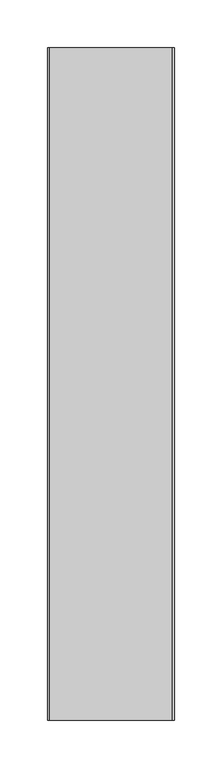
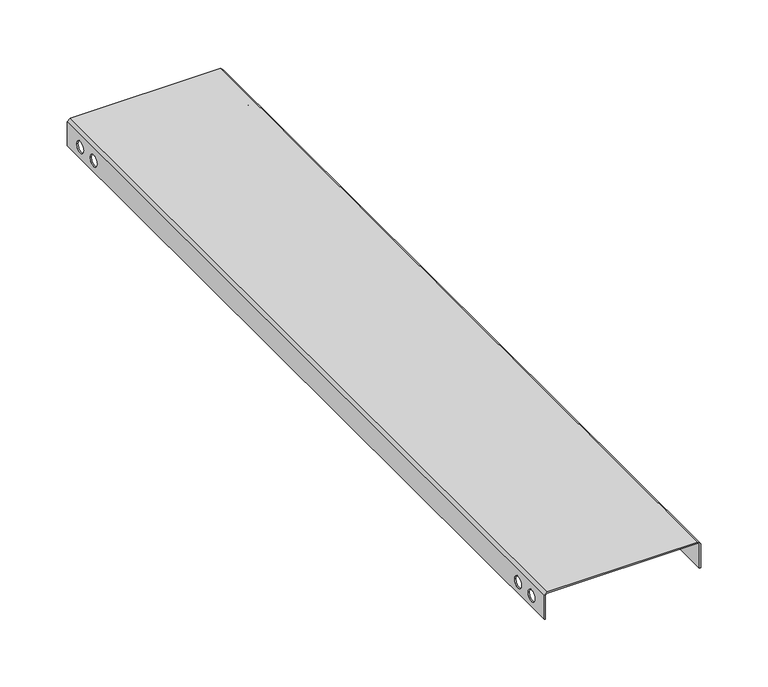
"""IFC4 building model written with IfcOpenShell, lengths in millimetres: proxy geometry, 11780900_EU_APDR008 : 59520008_EU_11780900_APDR008."""

from ifc_helpers import new_model, si_unit, frame, origin, place, context, project, spatial, polyline, circle_curve, source, transform, mapped, element, save
from ifc_brep_helpers import plane_surface, revolved_surface, advanced_brep


def specialty_equipment_b656eaf4(model_context):
    return source(origin(), model_context, "Body", "AdvancedBrep", [
        advanced_brep(
        [(-67.0, -708.0, 21.5), (-67.0, -708.0, 0.0), (-66.0, -708.0, 0.0), (-66.0, -708.0, 21.5), (-64.5, -708.0, 23.0), (64.5, -708.0, 23.0), (66.0, -708.0, 21.5), (66.0, -708.0, 0.0), (67.0, -708.0, 0.0), (67.0, -708.0, 21.5), (64.5, -708.0, 24.0), (-64.5, -708.0, 24.0), (-67.0, 0.0, 21.5), (-64.5, 0.0, 24.0), (64.5, 0.0, 24.0), (67.0, 0.0, 21.5), (67.0, 0.0, 0.0), (66.0, 0.0, 0.0), (66.0, 0.0, 21.5), (64.5, 0.0, 23.0), (-64.5, 0.0, 23.0), (-66.0, 0.0, 21.5), (-66.0, 0.0, 0.0), (-67.0, 0.0, 0.0), (-67.0, -24.0071888, 10.002217), (-67.0, -13.9928112, 10.002217), (-67.0, -44.0071888, 10.002217), (-67.0, -33.9928112, 10.002217), (-67.0, -694.0071888, 10.002217), (-67.0, -683.9928112, 10.002217), (-67.0, -674.0071888, 10.002217), (-67.0, -663.9928112, 10.002217), (-66.0, -13.9928112, 10.002217), (-66.0, -24.0071888, 10.002217), (-66.0, -33.9928112, 10.002217), (-66.0, -44.0071888, 10.002217), (-66.0, -683.9928112, 10.002217), (-66.0, -694.0071888, 10.002217), (-66.0, -663.9928112, 10.002217), (-66.0, -674.0071888, 10.002217), (67.0, -36.2136758, 10.002217), (67.0, -41.7863242, 10.002217), (67.0, -666.2136758, 10.002217), (67.0, -671.7863242, 10.002217), (66.1750437, -41.7863242, 10.002217), (66.1750437, -36.2136758, 10.002217), (66.1750437, -671.7863242, 10.002217), (66.1750437, -666.2136758, 10.002217)],
        [
            (0, 1),
            (1, 2),
            (2, 3),
            (3, 4),
            (4, 5),
            (5, 6),
            (6, 7),
            (7, 8),
            (8, 9),
            (9, 10),
            (10, 11),
            (11, 0),
            (12, 13),
            (13, 14),
            (14, 15),
            (15, 16),
            (16, 17),
            (17, 18),
            (18, 19),
            (19, 20),
            (20, 21),
            (21, 22),
            (22, 23),
            (23, 12),
            (0, 12),
            (23, 1),
            (24, 25, circle_curve(frame((-67.0, -19.0, 10.002217), z_axis=(1.0, 0.0, 0.0), x_axis=(0.0, 1.0, 0.0)), 5.0071888)),
            (25, 24, circle_curve(frame((-67.0, -19.0, 10.002217), z_axis=(1.0, 0.0, 0.0), x_axis=(0.0, 1.0, 0.0)), 5.0071888)),
            (26, 27, circle_curve(frame((-67.0, -39.0, 10.002217), z_axis=(1.0, 0.0, 0.0), x_axis=(0.0, 1.0, 0.0)), 5.0071888)),
            (27, 26, circle_curve(frame((-67.0, -39.0, 10.002217), z_axis=(1.0, 0.0, 0.0), x_axis=(0.0, 1.0, 0.0)), 5.0071888)),
            (28, 29, circle_curve(frame((-67.0, -689.0, 10.002217), z_axis=(1.0, 0.0, 0.0), x_axis=(0.0, 1.0, 0.0)), 5.0071888)),
            (29, 28, circle_curve(frame((-67.0, -689.0, 10.002217), z_axis=(1.0, 0.0, 0.0), x_axis=(0.0, 1.0, 0.0)), 5.0071888)),
            (30, 31, circle_curve(frame((-67.0, -669.0, 10.002217), z_axis=(1.0, 0.0, 0.0), x_axis=(0.0, 1.0, 0.0)), 5.0071888)),
            (31, 30, circle_curve(frame((-67.0, -669.0, 10.002217), z_axis=(1.0, 0.0, 0.0), x_axis=(0.0, 1.0, 0.0)), 5.0071888)),
            (22, 2),
            (21, 3),
            (32, 33, circle_curve(frame((-66.0, -19.0, 10.002217), z_axis=(-1.0, 0.0, 0.0), x_axis=(0.0, 1.0, 0.0)), 5.0071888)),
            (33, 32, circle_curve(frame((-66.0, -19.0, 10.002217), z_axis=(-1.0, 0.0, 0.0), x_axis=(0.0, 1.0, 0.0)), 5.0071888)),
            (34, 35, circle_curve(frame((-66.0, -39.0, 10.002217), z_axis=(-1.0, 0.0, 0.0), x_axis=(0.0, 1.0, 0.0)), 5.0071888)),
            (35, 34, circle_curve(frame((-66.0, -39.0, 10.002217), z_axis=(-1.0, 0.0, 0.0), x_axis=(0.0, 1.0, 0.0)), 5.0071888)),
            (36, 37, circle_curve(frame((-66.0, -689.0, 10.002217), z_axis=(-1.0, 0.0, 0.0), x_axis=(0.0, 1.0, 0.0)), 5.0071888)),
            (37, 36, circle_curve(frame((-66.0, -689.0, 10.002217), z_axis=(-1.0, 0.0, 0.0), x_axis=(0.0, 1.0, 0.0)), 5.0071888)),
            (38, 39, circle_curve(frame((-66.0, -669.0, 10.002217), z_axis=(-1.0, 0.0, 0.0), x_axis=(0.0, 1.0, 0.0)), 5.0071888)),
            (39, 38, circle_curve(frame((-66.0, -669.0, 10.002217), z_axis=(-1.0, 0.0, 0.0), x_axis=(0.0, 1.0, 0.0)), 5.0071888)),
            (20, 4),
            (19, 5),
            (18, 6),
            (17, 7),
            (16, 8),
            (15, 9),
            (40, 41, circle_curve(frame((67.0, -39.0, 10.002217), z_axis=(-1.0, 0.0, 0.0), x_axis=(0.0, 1.0, 0.0)), 2.7863242)),
            (41, 40, circle_curve(frame((67.0, -39.0, 10.002217), z_axis=(-1.0, 0.0, 0.0), x_axis=(0.0, 1.0, 0.0)), 2.7863242)),
            (42, 43, circle_curve(frame((67.0, -669.0, 10.002217), z_axis=(-1.0, 0.0, 0.0), x_axis=(0.0, 1.0, 0.0)), 2.7863242)),
            (43, 42, circle_curve(frame((67.0, -669.0, 10.002217), z_axis=(-1.0, 0.0, 0.0), x_axis=(0.0, 1.0, 0.0)), 2.7863242)),
            (14, 10),
            (13, 11),
            (24, 33),
            (32, 25),
            (26, 35),
            (34, 27),
            (28, 37),
            (36, 29),
            (30, 39),
            (38, 31),
            (44, 45, circle_curve(frame((66.1750437, -39.0, 10.002217), z_axis=(1.0, 0.0, 0.0), x_axis=(0.0, 1.0, 0.0)), 2.7863242)),
            (45, 44, circle_curve(frame((66.1750437, -39.0, 10.002217), z_axis=(1.0, 0.0, 0.0), x_axis=(0.0, 1.0, 0.0)), 2.7863242)),
            (46, 47, circle_curve(frame((66.1750437, -669.0, 10.002217), z_axis=(1.0, 0.0, 0.0), x_axis=(0.0, 1.0, 0.0)), 2.7863242)),
            (47, 46, circle_curve(frame((66.1750437, -669.0, 10.002217), z_axis=(1.0, 0.0, 0.0), x_axis=(0.0, 1.0, 0.0)), 2.7863242)),
            (44, 41),
            (40, 45),
            (46, 43),
            (42, 47),
        ],
        [
            plane_surface(frame((-67.0, -708.0, 0.0), z_axis=(0.0, -1.0, 0.0), x_axis=(0.0, 0.0, -1.0))),
            plane_surface(frame((-67.0, 0.0, 0.0), z_axis=(0.0, 1.0, 0.0), x_axis=(0.0, 0.0, 1.0))),
            plane_surface(frame((-67.0, -708.0, 21.5), z_axis=(-1.0, 0.0, 0.0), x_axis=(0.0, 1.0, 0.0))),
            plane_surface(frame((-67.0, -708.0, 0.0), z_axis=(0.0, 0.0, -1.0), x_axis=(0.0, 1.0, 0.0))),
            plane_surface(frame((-66.0, -708.0, 0.0), z_axis=(1.0, 0.0, 0.0), x_axis=(0.0, 1.0, 0.0))),
            plane_surface(frame((-66.0, -708.0, 21.5), z_axis=(0.7071067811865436, 0.0, -0.7071067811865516), x_axis=(0.0, 1.0, 0.0))),
            plane_surface(frame((-64.5, -708.0, 23.0), z_axis=(0.0, 0.0, -1.0), x_axis=(0.0, 1.0, 0.0))),
            plane_surface(frame((64.5, -708.0, 23.0), z_axis=(-0.7071067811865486, 0.0, -0.7071067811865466), x_axis=(0.0, 1.0, 0.0))),
            plane_surface(frame((66.0, -708.0, 21.5), z_axis=(-1.0, 0.0, 0.0), x_axis=(0.0, 1.0, 0.0))),
            plane_surface(frame((66.0, -708.0, 0.0), z_axis=(0.0, 0.0, -1.0), x_axis=(0.0, 1.0, 0.0))),
            plane_surface(frame((67.0, -708.0, 0.0), z_axis=(1.0, 0.0, 0.0), x_axis=(0.0, 1.0, 0.0))),
            plane_surface(frame((67.0, -708.0, 21.5), z_axis=(0.7071067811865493, 0.0, 0.7071067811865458), x_axis=(0.0, 1.0, 0.0))),
            plane_surface(frame((64.5, -708.0, 24.0), z_axis=(0.0, 0.0, 1.0), x_axis=(0.0, 1.0, 0.0))),
            plane_surface(frame((-64.5, -708.0, 24.0), z_axis=(-0.7071067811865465, 0.0, 0.7071067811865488), x_axis=(0.0, 1.0, 0.0))),
            revolved_surface(polyline([(-67.0, -13.9928112, 10.002217), (-66.0, -13.9928112, 10.002217)]), (-66.0, -19.0, 10.002217), (-1.0, 0.0, 0.0)),
            revolved_surface(polyline([(-67.0, -33.9928112, 10.002217), (-66.0, -33.9928112, 10.002217)]), (0.0, -39.0, 10.002217), (-1.0, 0.0, 0.0)),
            revolved_surface(polyline([(-67.0, -683.9928112, 10.002217), (-66.0, -683.9928112, 10.002217)]), (0.0, -689.0, 10.002217), (-1.0, 0.0, 0.0)),
            revolved_surface(polyline([(-67.0, -663.9928112, 10.002217), (-66.0, -663.9928112, 10.002217)]), (0.0, -669.0, 10.002217), (-1.0, 0.0, 0.0)),
            plane_surface(frame((66.1750437, -36.2136758, 10.002217), z_axis=(1.0, 0.0, 0.0), x_axis=(0.0, 0.0, -1.0))),
            revolved_surface(polyline([(67.0, -36.2136758, 10.002217), (66.1750437, -36.2136758, 10.002217)]), (66.1750437, -39.0, 10.002217), (1.0, 0.0, 0.0)),
            revolved_surface(polyline([(67.0, -666.2136758, 10.002217), (66.1750437, -666.2136758, 10.002217)]), (0.0, -669.0, 10.002217), (1.0, 0.0, 0.0)),
        ],
        [
            (0, [[1, 2, 3, 4, 5, 6, 7, 8, 9, 10, 11, 12]]),
            (1, [[13, 14, 15, 16, 17, 18, 19, 20, 21, 22, 23, 24]]),
            (2, [[-1, 25, -24, 26], [27, 28], [29, 30], [31, 32], [33, 34]]),
            (3, [[-2, -26, -23, 35]]),
            (4, [[-3, -35, -22, 36], [37, 38], [39, 40], [41, 42], [43, 44]]),
            (5, [[-4, -36, -21, 45]]),
            (6, [[-5, -45, -20, 46]]),
            (7, [[-6, -46, -19, 47]]),
            (8, [[-7, -47, -18, 48]]),
            (9, [[-8, -48, -17, 49]]),
            (10, [[-9, -49, -16, 50], [51, 52], [53, 54]]),
            (11, [[-10, -50, -15, 55]]),
            (12, [[-11, -55, -14, 56]]),
            (13, [[-12, -56, -13, -25]]),
            (14, [[57, -37, 58, -27]]),
            (14, [[-57, -28, -58, -38]]),
            (15, [[59, -39, 60, -29]]),
            (15, [[-59, -30, -60, -40]]),
            (16, [[61, -41, 62, -31]]),
            (16, [[-61, -32, -62, -42]]),
            (17, [[63, -43, 64, -33]]),
            (17, [[-63, -34, -64, -44]]),
            (18, [[65, 66]]),
            (18, [[67, 68]]),
            (19, [[-65, 69, -51, 70]]),
            (19, [[-66, -70, -52, -69]]),
            (20, [[-67, 71, -53, 72]]),
            (20, [[-68, -72, -54, -71]]),
        ],
    ),
    ])


if __name__ == "__main__":
    model = new_model("IFC4")
    model_context = context("Model", 3, world=origin())
    ifc_project = project(units=[si_unit("LENGTHUNIT", "METRE", prefix="MILLI")], contexts=[model_context])
    site = spatial("IfcSite", under=ifc_project)
    building = spatial("IfcBuilding", under=site)
    placement = place(None, origin())
    specialty_equipment_shape = specialty_equipment_b656eaf4(model_context)
    element("IfcBuildingElementProxy", 1, Name="11780900_EU_APDR008 : 59520008_EU_11780900_APDR008", ObjectType="11780900_EU_APDR008 : 59520008_EU_11780900_APDR008", at=placement, inside=building, context=model_context, shape_type="MappedRepresentation", body=[
        mapped(specialty_equipment_shape, transform((0.0, 0.0, 0.0), x_axis=(1.0, 0.0, 0.0), y_axis=(0.0, 1.0, 0.0), z_axis=(0.0, 0.0, 1.0))),
    ])
    save(model, "model.ifc")
